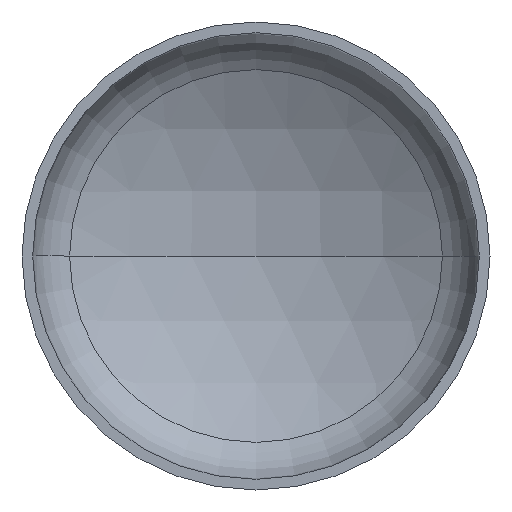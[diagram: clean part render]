
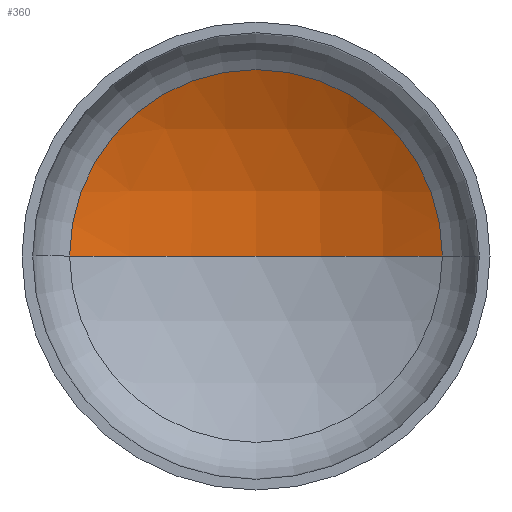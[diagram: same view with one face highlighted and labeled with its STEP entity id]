
A CAD part, front view. The second image highlights one B-rep face of the part: STEP entity #360.
In plain terms, the highlighted spherical face has radius 560 mm.
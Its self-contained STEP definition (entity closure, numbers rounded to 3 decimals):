
#8 = AXIS2_PLACEMENT_3D ( 'NONE', #209, #140, #155 ) ;
#13 = AXIS2_PLACEMENT_3D ( 'NONE', #330, #174, #359 ) ;
#18 = EDGE_LOOP ( 'NONE', ( #93, #41, #85 ) ) ;
#25 = AXIS2_PLACEMENT_3D ( 'NONE', #173, #390, #235 ) ;
#31 = VERTEX_POINT ( 'NONE', #236 ) ;
#34 = VERTEX_POINT ( 'NONE', #279 ) ;
#41 = ORIENTED_EDGE ( 'NONE', *, *, #333, .T. ) ;
#46 = AXIS2_PLACEMENT_3D ( 'NONE', #135, #161, #158 ) ;
#85 = ORIENTED_EDGE ( 'NONE', *, *, #314, .T. ) ;
#93 = ORIENTED_EDGE ( 'NONE', *, *, #365, .F. ) ;
#135 = CARTESIAN_POINT ( 'NONE',  ( 0., 150.404, 0. ) ) ;
#136 = VERTEX_POINT ( 'NONE', #288 ) ;
#139 = CIRCLE ( 'NONE', #25, 560. ) ;
#140 = DIRECTION ( 'NONE',  ( 0., 0., -1. ) ) ;
#155 = DIRECTION ( 'NONE',  ( -1., 0., 0. ) ) ;
#158 = DIRECTION ( 'NONE',  ( 1., 0., 0. ) ) ;
#161 = DIRECTION ( 'NONE',  ( 0., -1., 0. ) ) ;
#173 = CARTESIAN_POINT ( 'NONE',  ( 0., -335.287, 0. ) ) ;
#174 = DIRECTION ( 'NONE',  ( 0., 0., 1. ) ) ;
#209 = CARTESIAN_POINT ( 'NONE',  ( 0., -335.287, 0. ) ) ;
#235 = DIRECTION ( 'NONE',  ( -1., 0., 0. ) ) ;
#236 = CARTESIAN_POINT ( 'NONE',  ( 278.756, 150.404, 0. ) ) ;
#261 = FACE_OUTER_BOUND ( 'NONE', #18, .T. ) ;
#273 = CIRCLE ( 'NONE', #46, 278.756 ) ;
#279 = CARTESIAN_POINT ( 'NONE',  ( 0., 224.713, 0. ) ) ;
#288 = CARTESIAN_POINT ( 'NONE',  ( -278.756, 150.404, 0. ) ) ;
#314 = EDGE_CURVE ( 'NONE', #31, #136, #273, .T. ) ;
#330 = CARTESIAN_POINT ( 'NONE',  ( 0., -335.287, 0. ) ) ;
#331 = CIRCLE ( 'NONE', #13, 560. ) ;
#333 = EDGE_CURVE ( 'NONE', #34, #31, #139, .T. ) ;
#359 = DIRECTION ( 'NONE',  ( 1., 0., 0. ) ) ;
#360 = ADVANCED_FACE ( 'NONE', ( #261 ), #391, .F. ) ;
#365 = EDGE_CURVE ( 'NONE', #34, #136, #331, .T. ) ;
#390 = DIRECTION ( 'NONE',  ( 0., 0., -1. ) ) ;
#391 = SPHERICAL_SURFACE ( 'NONE', #8, 560. ) ;
